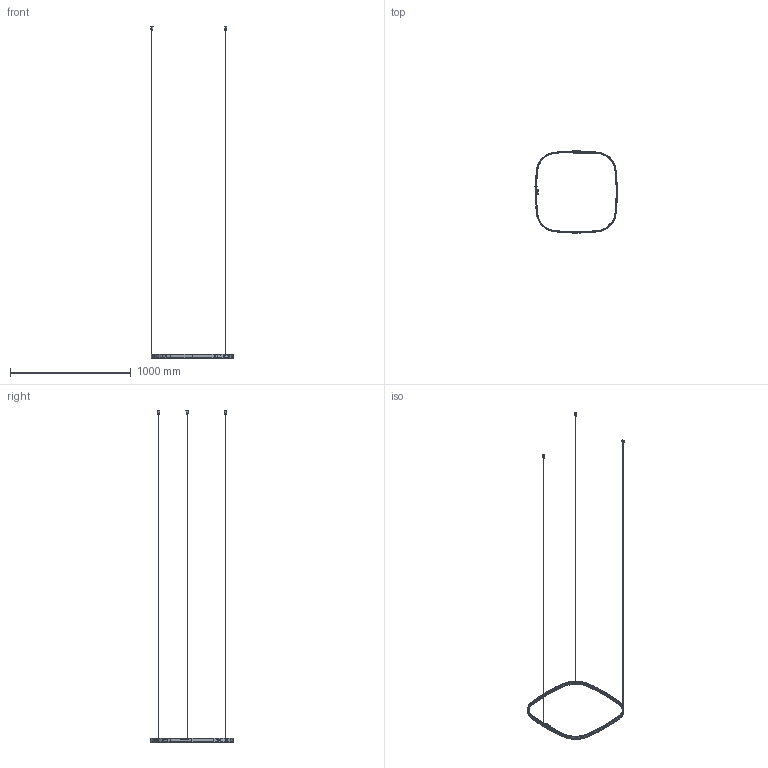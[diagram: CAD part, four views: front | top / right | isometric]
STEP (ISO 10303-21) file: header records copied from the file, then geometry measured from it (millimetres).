
FILE_DESCRIPTION(/* description */ (''),/* implementation_level */ '2;1');
FILE_NAME(/* name */ 'Zero Square M152__.075',/* time_stamp */ '2025-05-28T09:21:38+02:00',/* author */ (''),/* organization */ (''),/* preprocessor_version */ 'ST-DEVELOPER v16.5',/* originating_system */ '',/* authorisation */ '');
FILE_SCHEMA (('AUTOMOTIVE_DESIGN'));
Length unit declared in the file: millimetre
Products named in the file (8): Document; 3300.0144000.00 (profilo curvo Zero Square ALL 7,7x30mm L 681,6mm)_33
06.0144001.00; 3100.0043000.00 (schermo estruso Giplast 09PE79 PC 19x3,8mm per corni
ce quadra L int. 663,6mm)_3101.0043001.98; 5402.0001000.00 (fune ACC 19 fili D 1,2mm con cilindro terminale 3x3m
m)_5402.0001270.00; 3200.0200003.00 (copertura giunzione ACC 60,2x18,7mm H 23mm sp 1)_320
9.0200003.00; 5205.0004007.00 (nipplo D 10mm sp 2 gambo H 7mm M8x1 PC trasparente S
teab 5475-3-07-011)_5205.0004007.00; 5200.0002000.00 (dispositivo regolazione fune OTTONE nichelato con in
nesto maschio M10 L 14mm)_5200.0002000.00; 3300.0298000.00 (manicotto per sospensione singola ALL D 20mm H 32mm 
con foro M10x1)_3302.0298000.00
Assembly tree (13 placements, depth 2):
  Document
    3300.0144000.00 (profilo curvo Zero Square ALL 7,7x30mm L 681,6mm)_33
06.0144001.00
    3100.0043000.00 (schermo estruso Giplast 09PE79 PC 19x3,8mm per corni
ce quadra L int. 663,6mm)_3101.0043001.98
    5402.0001000.00 (fune ACC 19 fili D 1,2mm con cilindro terminale 3x3m
m)_5402.0001270.00  x3
    3200.0200003.00 (copertura giunzione ACC 60,2x18,7mm H 23mm sp 1)_320
9.0200003.00
    5205.0004007.00 (nipplo D 10mm sp 2 gambo H 7mm M8x1 PC trasparente S
teab 5475-3-07-011)_5205.0004007.00
    5200.0002000.00 (dispositivo regolazione fune OTTONE nichelato con in
nesto maschio M10 L 14mm)_5200.0002000.00  x3
    3300.0298000.00 (manicotto per sospensione singola ALL D 20mm H 32mm 
con foro M10x1)_3302.0298000.00  x3
Bounding box: 686.03 x 681.55 x 2754.95 mm (x, y, z)
Volume: 388520.5 mm3; surface area: 365370 mm2
Topology: 19 solids, 19 shells, 1057 faces, 2376 edges, 1361 vertices
Faces by surface type: bspline 831, plane 226
Entity records: 52105 total; most frequent: CARTESIAN_POINT 41127, ORIENTED_EDGE 3824, EDGE_CURVE 1912, VERTEX_POINT 1065, EDGE_LOOP 881, ADVANCED_FACE 863, FACE_OUTER_BOUND 863, B_SPLINE_CURVE_WITH_KNOTS 679
